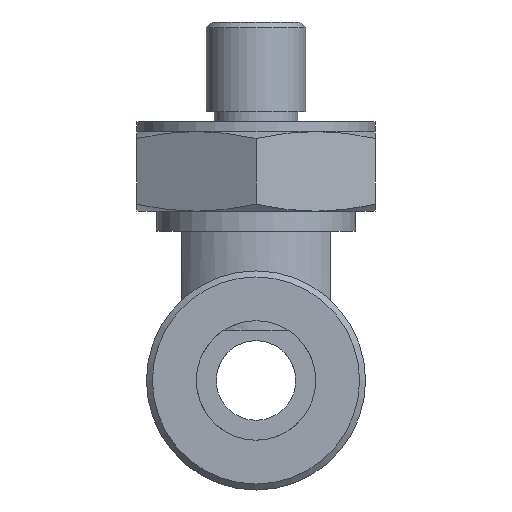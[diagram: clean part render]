
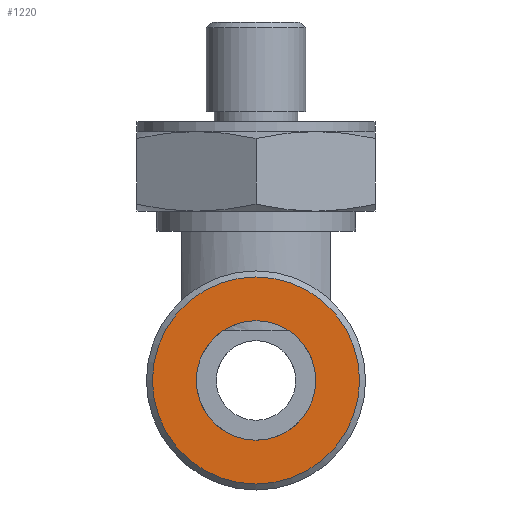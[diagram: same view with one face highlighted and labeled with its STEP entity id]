
A CAD part, front view. The second image highlights one B-rep face of the part: STEP entity #1220.
In plain terms, the highlighted planar face has unit normal (0, -1, 0).
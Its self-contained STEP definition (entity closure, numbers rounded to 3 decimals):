
#87=FACE_BOUND('',#281,.T.);
#115=PLANE('',#1436);
#190=FACE_OUTER_BOUND('',#280,.T.);
#280=EDGE_LOOP('',(#1041));
#281=EDGE_LOOP('',(#1042));
#459=CIRCLE('',#1407,3.);
#474=CIRCLE('',#1433,5.2);
#573=VERTEX_POINT('',#2193);
#589=VERTEX_POINT('',#2249);
#715=EDGE_CURVE('',#573,#573,#459,.T.);
#745=EDGE_CURVE('',#589,#589,#474,.T.);
#1041=ORIENTED_EDGE('',*,*,#745,.F.);
#1042=ORIENTED_EDGE('',*,*,#715,.T.);
#1220=ADVANCED_FACE('',(#190,#87),#115,.F.);
#1407=AXIS2_PLACEMENT_3D('',#2194,#1709,#1710);
#1433=AXIS2_PLACEMENT_3D('',#2251,#1776,#1777);
#1436=AXIS2_PLACEMENT_3D('',#2256,#1783,#1784);
#1709=DIRECTION('center_axis',(0.,1.,0.));
#1710=DIRECTION('ref_axis',(1.,0.,0.));
#1776=DIRECTION('center_axis',(0.,1.,0.));
#1777=DIRECTION('ref_axis',(-1.,0.,0.));
#1783=DIRECTION('center_axis',(0.,1.,0.));
#1784=DIRECTION('ref_axis',(0.,0.,1.));
#2193=CARTESIAN_POINT('',(-3.,-20.,0.));
#2194=CARTESIAN_POINT('Origin',(0.,-20.,0.));
#2249=CARTESIAN_POINT('',(5.2,-20.,0.));
#2251=CARTESIAN_POINT('Origin',(0.,-20.,0.));
#2256=CARTESIAN_POINT('Origin',(0.,-20.,0.));
